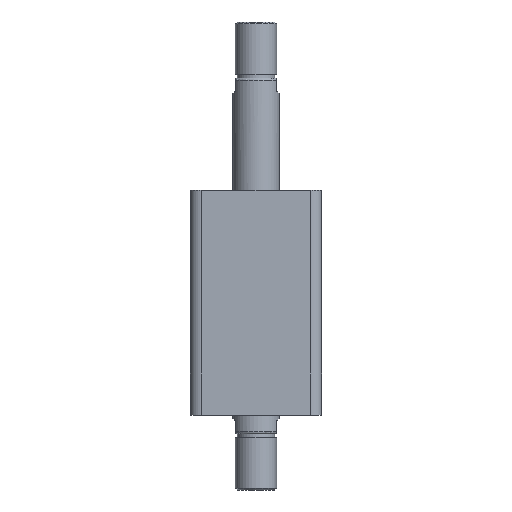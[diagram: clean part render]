
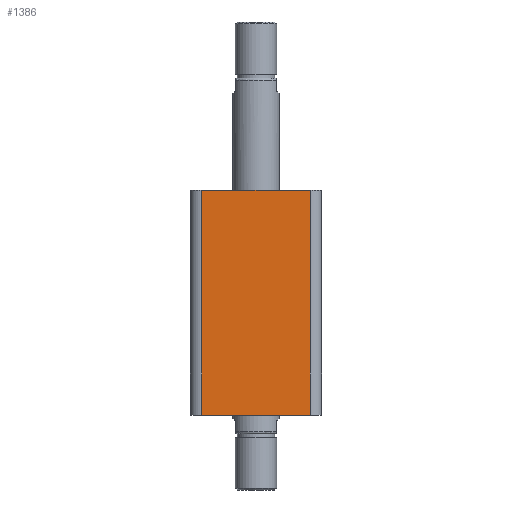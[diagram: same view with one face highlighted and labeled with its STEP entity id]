
A CAD part, front view. The second image highlights one B-rep face of the part: STEP entity #1386.
In plain terms, the highlighted planar face has unit normal (0, -1, 0).
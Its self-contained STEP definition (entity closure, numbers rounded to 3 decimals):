
#6 = CARTESIAN_POINT ( 'NONE',  ( 29., -35., 120. ) ) ;
#7 = CARTESIAN_POINT ( 'NONE',  ( 29., -35., 0. ) ) ;
#9 = CARTESIAN_POINT ( 'NONE',  ( -29., -35., 0. ) ) ;
#136 = CARTESIAN_POINT ( 'NONE',  ( -35., -35., 120. ) ) ;
#138 = PLANE ( 'NONE',  #2244 ) ;
#140 = DIRECTION ( 'NONE',  ( 0., 1., 0. ) ) ;
#141 = DIRECTION ( 'NONE',  ( 0., 0., 1. ) ) ;
#280 = VERTEX_POINT ( 'NONE', #9 ) ;
#281 = VERTEX_POINT ( 'NONE', #7 ) ;
#282 = VERTEX_POINT ( 'NONE', #6 ) ;
#360 = EDGE_LOOP ( 'NONE', ( #1879, #1880, #1881, #1882 ) ) ;
#436 = FACE_OUTER_BOUND ( 'NONE', #360, .T. ) ;
#635 = CARTESIAN_POINT ( 'NONE',  ( -35., -35., 0. ) ) ;
#656 = CARTESIAN_POINT ( 'NONE',  ( -35., -35., 120. ) ) ;
#657 = DIRECTION ( 'NONE',  ( 1., 0., 0. ) ) ;
#658 = CARTESIAN_POINT ( 'NONE',  ( -29., -35., 120. ) ) ;
#659 = DIRECTION ( 'NONE',  ( 0., 0., -1. ) ) ;
#660 = DIRECTION ( 'NONE',  ( 1., 0., 0. ) ) ;
#661 = CARTESIAN_POINT ( 'NONE',  ( 29., -35., 120. ) ) ;
#662 = DIRECTION ( 'NONE',  ( 0., 0., 1. ) ) ;
#1139 = LINE ( 'NONE', #635, #1152 ) ;
#1145 = LINE ( 'NONE', #656, #1148 ) ;
#1147 = LINE ( 'NONE', #658, #1150 ) ;
#1148 = VECTOR ( 'NONE', #657, 1000. ) ;
#1150 = VECTOR ( 'NONE', #659, 1000. ) ;
#1151 = LINE ( 'NONE', #661, #1154 ) ;
#1152 = VECTOR ( 'NONE', #660, 1000. ) ;
#1154 = VECTOR ( 'NONE', #662, 1000. ) ;
#1386 = ADVANCED_FACE ( 'NONE', ( #436 ), #138, .F. ) ;
#1879 = ORIENTED_EDGE ( 'NONE', *, *, #2082, .F. ) ;
#1880 = ORIENTED_EDGE ( 'NONE', *, *, #2083, .T. ) ;
#1881 = ORIENTED_EDGE ( 'NONE', *, *, #2084, .T. ) ;
#1882 = ORIENTED_EDGE ( 'NONE', *, *, #2085, .T. ) ;
#2082 = EDGE_CURVE ( 'NONE', #2873, #282, #1145, .T. ) ;
#2083 = EDGE_CURVE ( 'NONE', #2873, #280, #1147, .T. ) ;
#2084 = EDGE_CURVE ( 'NONE', #280, #281, #1139, .T. ) ;
#2085 = EDGE_CURVE ( 'NONE', #281, #282, #1151, .T. ) ;
#2244 = AXIS2_PLACEMENT_3D ( 'NONE', #136, #140, #141 ) ;
#2525 = CARTESIAN_POINT ( 'NONE',  ( -29., -35., 120. ) ) ;
#2873 = VERTEX_POINT ( 'NONE', #2525 ) ;
